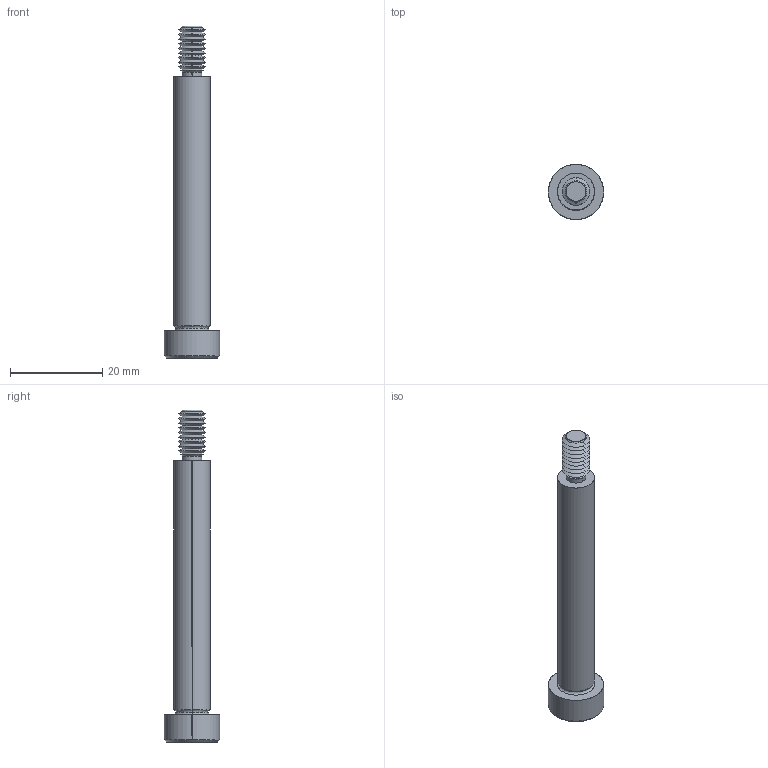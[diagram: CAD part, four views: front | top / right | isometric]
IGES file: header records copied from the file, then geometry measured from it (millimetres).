
Start section: SolidWorks IGES file using analytic representation for surfaces
Global section: file name: C:\Users\IanO\Documents\Temp Folder\GENERAL\SCREW REVISION\P0130_v2\P0130.T5_v2_20220106_IGES\P0130.080-055-T5.igs; native system: SolidWorks 2019; preprocessor: SolidWorks 2019; author: IanO; date: 220106.223706; units: millimetre
Bounding box: 12 x 12 x 72 mm (x, y, z)
Surface area: 2218.5 mm2 (no closed solid volume)
Topology: 0 solids, 0 shells, 80 faces, 580 edges, 578 vertices
Faces by surface type: revolution 60, bspline 20
